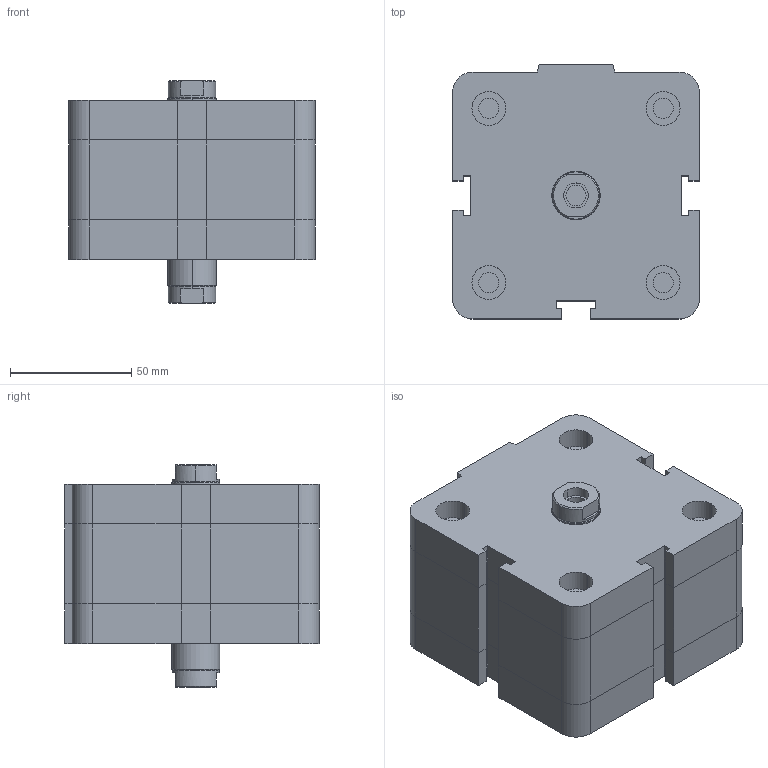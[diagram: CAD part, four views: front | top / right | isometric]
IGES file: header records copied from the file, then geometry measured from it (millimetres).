
Global section: file name: No Iges File Name specified; native system: Autodesk Inventor 2009; preprocessor: AutoDesk Inventor Iges Exporter R2009; author: maffial1; date: 20090420.200428; units: millimetre
Bounding box: 102 x 105 x 92 mm (x, y, z)
Volume: 656184.9 mm3; surface area: 68471.4 mm2
Topology: 2 solids, 2 shells, 202 faces, 450 edges, 274 vertices
Faces by surface type: plane 114, bspline 42, revolution 20, cylinder 18, cone 8
